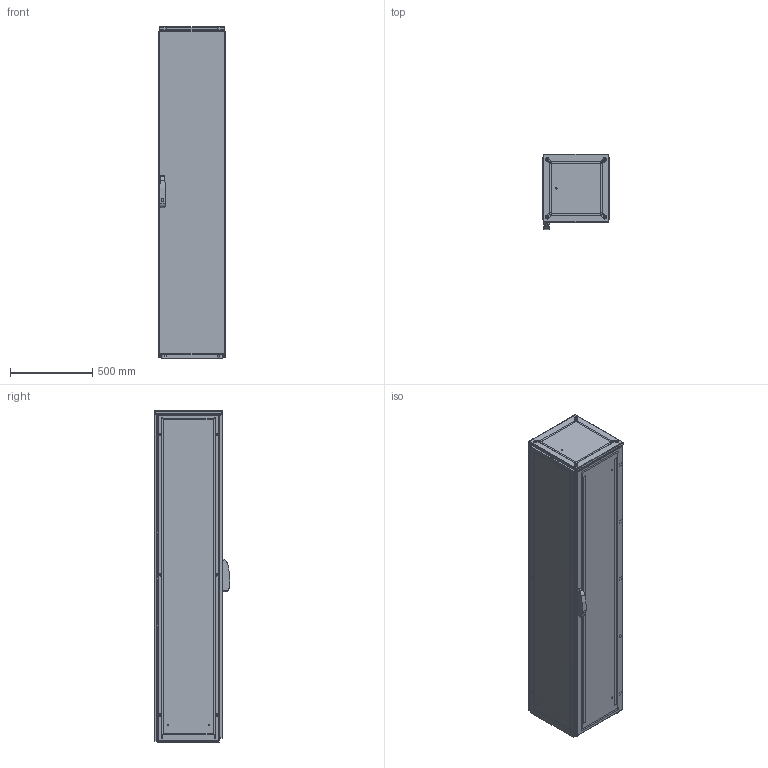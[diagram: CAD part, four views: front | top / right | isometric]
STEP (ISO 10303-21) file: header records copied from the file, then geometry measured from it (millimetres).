
FILE_DESCRIPTION(/* description */ ('STEP AP214'),/* implementation_level */ '2;1');
FILE_NAME(/* name */ 'ENUX042004PR-LOD350',/* time_stamp */ '2025-08-04T14:14:31+02:00',/* author */ ('License CC BY-ND 4.0'),/* organization */ ('CADENAS'),/* preprocessor_version */ 'ST-DEVELOPER v19.3',/* originating_system */ 'PARTsolutions',/* authorisation */ ' ');
FILE_SCHEMA (('AUTOMOTIVE_DESIGN {1 0 10303 214 3 1 1}'));
Length unit declared in the file: millimetre
Products named in the file (10): ENUX042004PR-LOD350; ENUX042004PR-LOD350_CON; ENUX042004PR-LOD350_floor1; ENUX042004PR-LOD350_floor2; Screw M12x30 architecture 350; ENUX042004PR-LOD350_side; ENUX042004PR-LOD350_top; ENUX042004PR-LOD350_back_door; ENUX042004PR-LOD350_door; ENUX042004PR-LOD350_handle
Assembly tree (14 placements, depth 2):
  ENUX042004PR-LOD350
    ENUX042004PR-LOD350_CON
    ENUX042004PR-LOD350_floor1  x2
    ENUX042004PR-LOD350_floor2
    Screw M12x30 architecture 350  x4
    ENUX042004PR-LOD350_side  x2
    ENUX042004PR-LOD350_top
    ENUX042004PR-LOD350_back_door
    ENUX042004PR-LOD350_door
    ENUX042004PR-LOD350_handle
Bounding box: 412 x 457 x 2014.1 mm (x, y, z)
Volume: 13454491.5 mm3; surface area: 12082693.9 mm2
Topology: 14 solids, 14 shells, 1602 faces, 4487 edges, 2924 vertices
Faces by surface type: plane 794, cylinder 643, cone 77, torus 72, sphere 16
Full cylindrical faces by diameter (mm): 4.5 x108, 6 x14, 6.8 x8, 9 x9, 12 x16, 13 x4, 18 x1, 21 x4
Entity records: 43831 total; most frequent: CARTESIAN_POINT 7611, DIRECTION 7585, ORIENTED_EDGE 7128, EDGE_CURVE 3564, AXIS2_PLACEMENT_3D 2700, VERTEX_POINT 2485, LINE 2185, VECTOR 2185
